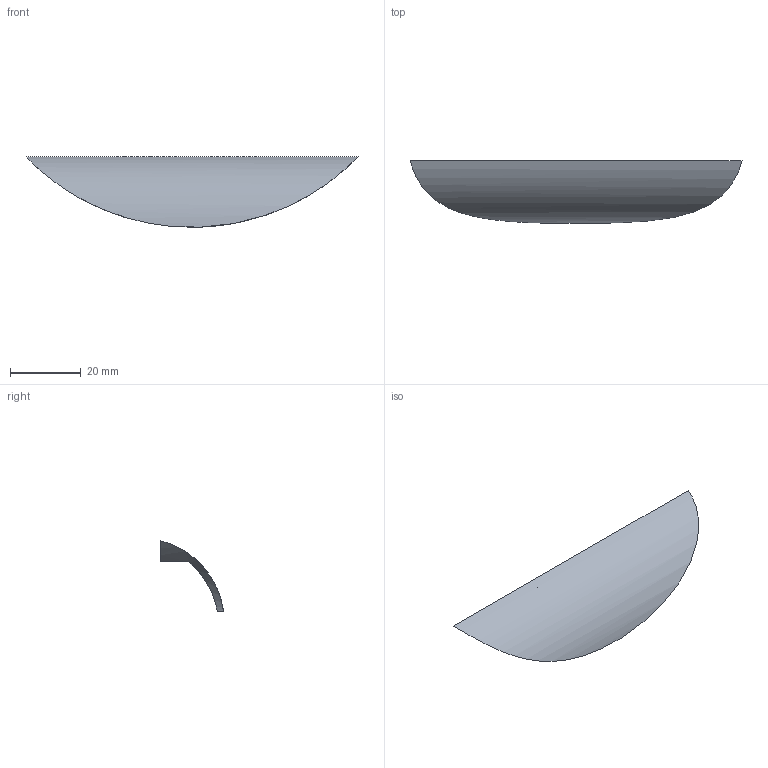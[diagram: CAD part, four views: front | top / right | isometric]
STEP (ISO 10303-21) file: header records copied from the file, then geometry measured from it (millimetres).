
FILE_DESCRIPTION( ( '' ), '1' );
FILE_NAME( 'D:/1.AUTOCAD EXPORT/Group 10/sheet_10_1/9070121.stp', '2013-10-22T04:32:38', ( '' ), ( '' ), ' ', ' ', ' ' );
FILE_SCHEMA( ( 'automotive_design' ) );
Length unit declared in the file: millimetre
Products named in the file (1): 1
Bounding box: 94 x 17.79 x 20 mm (x, y, z)
Volume: 4944.8 mm3; surface area: 4475.3 mm2
Topology: 1 solids, 1 shells, 11 faces, 21 edges, 14 vertices
Faces by surface type: cylinder 7, plane 4
Entity records: 682 total; most frequent: CARTESIAN_POINT 161, DIRECTION 53, STYLED_ITEM 47, PRESENTATION_STYLE_ASSIGNMENT 47, COLOUR_RGB 47, ORIENTED_EDGE 42, AXIS2_PLACEMENT_3D 22, EDGE_CURVE 21
